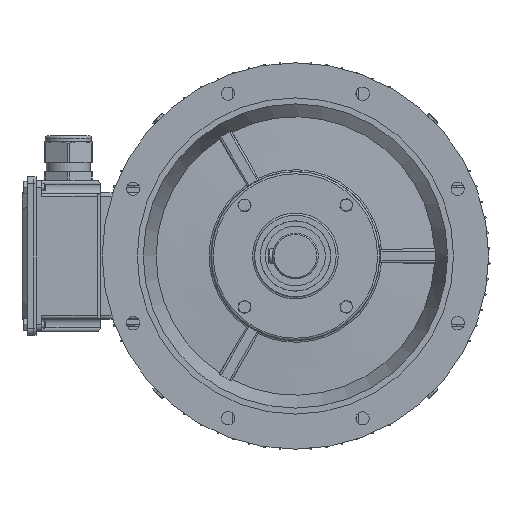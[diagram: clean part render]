
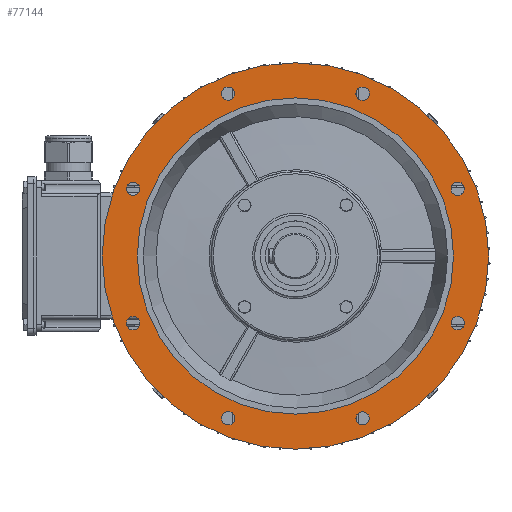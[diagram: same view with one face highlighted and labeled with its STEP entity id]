
A CAD part, left-side view. The second image highlights one B-rep face of the part: STEP entity #77144.
In plain terms, the highlighted planar face has unit normal (-1, 0, 0).
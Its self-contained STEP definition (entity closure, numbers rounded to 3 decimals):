
#76926=CARTESIAN_POINT('',(140.0,88.953,-237.687));
#76927=VERTEX_POINT('',#76926);
#76928=CARTESIAN_POINT('',(140.0,95.671,-230.97));
#76929=DIRECTION('',(1.0,0.,0.));
#76930=DIRECTION('',(0.,0.707,0.707));
#76931=AXIS2_PLACEMENT_3D('',#76928,#76929,#76930);
#76932=CIRCLE('',#76931,9.5);
#76933=EDGE_CURVE('',#76927,#76927,#76932,.T.);
#76946=CARTESIAN_POINT('',(140.0,-105.171,-230.97));
#76947=VERTEX_POINT('',#76946);
#76948=CARTESIAN_POINT('',(140.0,-95.671,-230.97));
#76949=DIRECTION('',(1.0,0.0,0.0));
#76950=DIRECTION('',(0.0,1.0,0.0));
#76951=AXIS2_PLACEMENT_3D('',#76948,#76949,#76950);
#76952=CIRCLE('',#76951,9.5);
#76953=EDGE_CURVE('',#76947,#76947,#76952,.T.);
#76966=CARTESIAN_POINT('',(140.0,-237.687,-88.953));
#76967=VERTEX_POINT('',#76966);
#76968=CARTESIAN_POINT('',(140.0,-230.97,-95.671));
#76969=DIRECTION('',(1.0,0.,0.));
#76970=DIRECTION('',(0.,0.707,-0.707));
#76971=AXIS2_PLACEMENT_3D('',#76968,#76969,#76970);
#76972=CIRCLE('',#76971,9.5);
#76973=EDGE_CURVE('',#76967,#76967,#76972,.T.);
#76986=CARTESIAN_POINT('',(140.0,-230.97,105.171));
#76987=VERTEX_POINT('',#76986);
#76988=CARTESIAN_POINT('',(140.0,-230.97,95.671));
#76989=DIRECTION('',(1.0,0.0,0.0));
#76990=DIRECTION('',(0.0,0.0,-1.0));
#76991=AXIS2_PLACEMENT_3D('',#76988,#76989,#76990);
#76992=CIRCLE('',#76991,9.5);
#76993=EDGE_CURVE('',#76987,#76987,#76992,.T.);
#77006=CARTESIAN_POINT('',(140.0,-88.953,237.687));
#77007=VERTEX_POINT('',#77006);
#77008=CARTESIAN_POINT('',(140.0,-95.671,230.97));
#77009=DIRECTION('',(1.0,0.,0.));
#77010=DIRECTION('',(0.,-0.707,-0.707));
#77011=AXIS2_PLACEMENT_3D('',#77008,#77009,#77010);
#77012=CIRCLE('',#77011,9.5);
#77013=EDGE_CURVE('',#77007,#77007,#77012,.T.);
#77026=CARTESIAN_POINT('',(140.0,105.171,230.97));
#77027=VERTEX_POINT('',#77026);
#77028=CARTESIAN_POINT('',(140.0,95.671,230.97));
#77029=DIRECTION('',(1.0,0.0,0.0));
#77030=DIRECTION('',(0.0,-1.0,0.0));
#77031=AXIS2_PLACEMENT_3D('',#77028,#77029,#77030);
#77032=CIRCLE('',#77031,9.5);
#77033=EDGE_CURVE('',#77027,#77027,#77032,.T.);
#77046=CARTESIAN_POINT('',(140.0,237.687,88.953));
#77047=VERTEX_POINT('',#77046);
#77048=CARTESIAN_POINT('',(140.0,230.97,95.671));
#77049=DIRECTION('',(1.0,0.,0.));
#77050=DIRECTION('',(0.,-0.707,0.707));
#77051=AXIS2_PLACEMENT_3D('',#77048,#77049,#77050);
#77052=CIRCLE('',#77051,9.5);
#77053=EDGE_CURVE('',#77047,#77047,#77052,.T.);
#77066=CARTESIAN_POINT('',(140.0,230.97,-105.171));
#77067=VERTEX_POINT('',#77066);
#77068=CARTESIAN_POINT('',(140.0,230.97,-95.671));
#77069=DIRECTION('',(1.0,0.0,0.0));
#77070=DIRECTION('',(0.0,0.0,1.0));
#77071=AXIS2_PLACEMENT_3D('',#77068,#77069,#77070);
#77072=CIRCLE('',#77071,9.5);
#77073=EDGE_CURVE('',#77067,#77067,#77072,.T.);
#77089=CARTESIAN_POINT('',(140.0,275.0,0.0));
#77090=VERTEX_POINT('',#77089);
#77091=CARTESIAN_POINT('',(140.0,0.,0.0));
#77092=DIRECTION('',(1.0,0.0,0.0));
#77093=DIRECTION('',(0.0,1.0,0.0));
#77094=AXIS2_PLACEMENT_3D('',#77091,#77092,#77093);
#77095=CIRCLE('',#77094,275.0);
#77096=EDGE_CURVE('',#77090,#77090,#77095,.T.);
#77101=CARTESIAN_POINT('',(140.0,250.0,0.0));
#77102=DIRECTION('',(-1.0,0.0,0.0));
#77103=DIRECTION('',(0.0,0.0,1.0));
#77104=AXIS2_PLACEMENT_3D('',#77101,#77102,#77103);
#77105=PLANE('',#77104);
#77106=ORIENTED_EDGE('',*,*,#77096,.F.);
#77107=EDGE_LOOP('',(#77106));
#77108=FACE_OUTER_BOUND('',#77107,.T.);
#77109=ORIENTED_EDGE('',*,*,#76933,.T.);
#77110=EDGE_LOOP('',(#77109));
#77111=FACE_BOUND('',#77110,.T.);
#77112=ORIENTED_EDGE('',*,*,#76953,.T.);
#77113=EDGE_LOOP('',(#77112));
#77114=FACE_BOUND('',#77113,.T.);
#77115=ORIENTED_EDGE('',*,*,#76973,.T.);
#77116=EDGE_LOOP('',(#77115));
#77117=FACE_BOUND('',#77116,.T.);
#77118=ORIENTED_EDGE('',*,*,#76993,.T.);
#77119=EDGE_LOOP('',(#77118));
#77120=FACE_BOUND('',#77119,.T.);
#77121=ORIENTED_EDGE('',*,*,#77013,.T.);
#77122=EDGE_LOOP('',(#77121));
#77123=FACE_BOUND('',#77122,.T.);
#77124=ORIENTED_EDGE('',*,*,#77033,.T.);
#77125=EDGE_LOOP('',(#77124));
#77126=FACE_BOUND('',#77125,.T.);
#77127=ORIENTED_EDGE('',*,*,#77053,.T.);
#77128=EDGE_LOOP('',(#77127));
#77129=FACE_BOUND('',#77128,.T.);
#77130=ORIENTED_EDGE('',*,*,#77073,.T.);
#77131=EDGE_LOOP('',(#77130));
#77132=FACE_BOUND('',#77131,.T.);
#77133=CARTESIAN_POINT('',(140.0,225.0,0.0));
#77134=VERTEX_POINT('',#77133);
#77135=CARTESIAN_POINT('',(140.0,0.,0.0));
#77136=DIRECTION('',(1.0,0.0,0.0));
#77137=DIRECTION('',(0.0,1.0,0.0));
#77138=AXIS2_PLACEMENT_3D('',#77135,#77136,#77137);
#77139=CIRCLE('',#77138,225.0);
#77140=EDGE_CURVE('',#77134,#77134,#77139,.T.);
#77141=ORIENTED_EDGE('',*,*,#77140,.T.);
#77142=EDGE_LOOP('',(#77141));
#77143=FACE_BOUND('',#77142,.T.);
#77144=ADVANCED_FACE('',(#77108,#77111,#77114,#77117,#77120,#77123,#77126,#77129,#77132,#77143),#77105,.T.);
